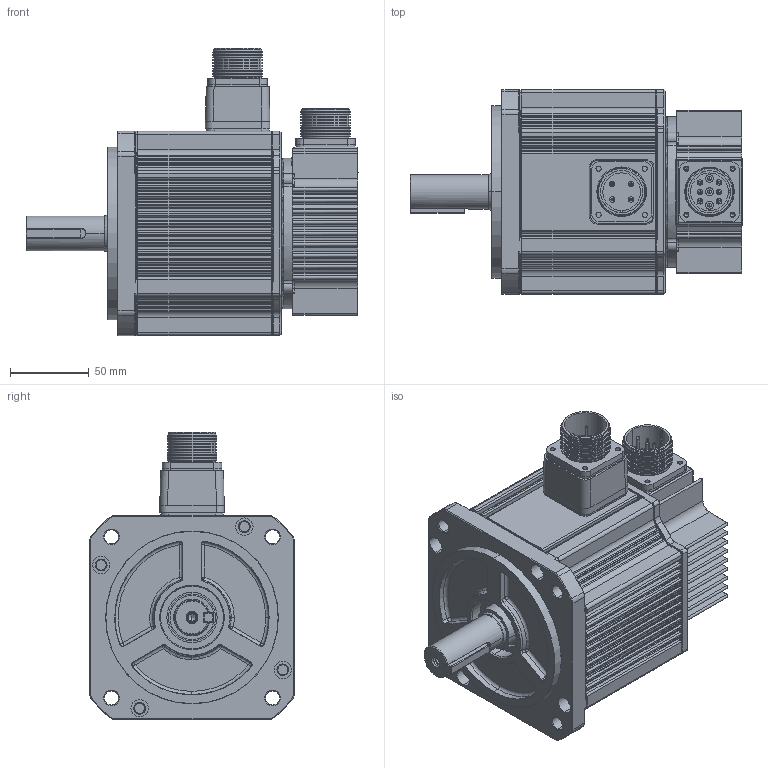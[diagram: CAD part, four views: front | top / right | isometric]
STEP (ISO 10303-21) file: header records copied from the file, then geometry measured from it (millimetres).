
FILE_DESCRIPTION (( 'STEP AP203' ), '1' );
FILE_NAME ('185-DXT-A6HK1_1 KEY.STEP', '2022-07-06T17:41:09', ( '' ), ( '' ), 'SwSTEP 2.0', 'SolidWorks 2011', '' );
FILE_SCHEMA (( 'CONFIG_CONTROL_DESIGN' ));
Products named in the file (16): 185-DXT-A6HK1_1 KEY; 0S302V0A0BP01-02_1; 0S861JE152111-01_2; 0S362J96481B1-02_2; 0Y303A3109RS1-01_1_1; KEY SHAFT; 0S180VXB8BA01-01_1; 0S363J41271B1-00_2; 0S331VXA0BP01-01_2; 0Y303A3109RS1-01_3; 0Y303A3104RS1-02_1; 0S140V1202AM1-00_1; 0S861JA152111-02_1; 0S301V0A0B101-01_2; 0S200VXG1X001-01_1; 0S211VXG1X001-01_1
Assembly tree (15 placements, depth 4):
  185-DXT-A6HK1_1 KEY
    0Y303A3109RS1-01_1_1
    0S301V0A0B101-01_2
    0S302V0A0BP01-02_1
    0S180VXB8BA01-01_1
      0S861JE152111-01_2
      0S331VXA0BP01-01_2
      0S363J41271B1-00_2
      0S140V1202AM1-00_1
        0Y303A3104RS1-02_1
    0S200VXG1X001-01_1
      0S211VXG1X001-01_1
    0S362J96481B1-02_2
    0Y303A3109RS1-01_3
    0S861JA152111-02_1
    KEY SHAFT
Bounding box: 211.3 x 130 x 182.76 mm (x, y, z)
Volume: 2330284.5 mm3; surface area: 280438.3 mm2
Topology: 12 solids, 12 shells, 2035 faces, 5136 edges, 3178 vertices
Faces by surface type: cylinder 958, plane 595, cone 220, torus 186, sphere 48, bspline 28
Entity records: 67716 total; most frequent: CARTESIAN_POINT 16993, DIRECTION 10712, ORIENTED_EDGE 10104, EDGE_CURVE 5052, AXIS2_PLACEMENT_3D 4192, VERTEX_POINT 3146, VECTOR 2328, LINE 2328
